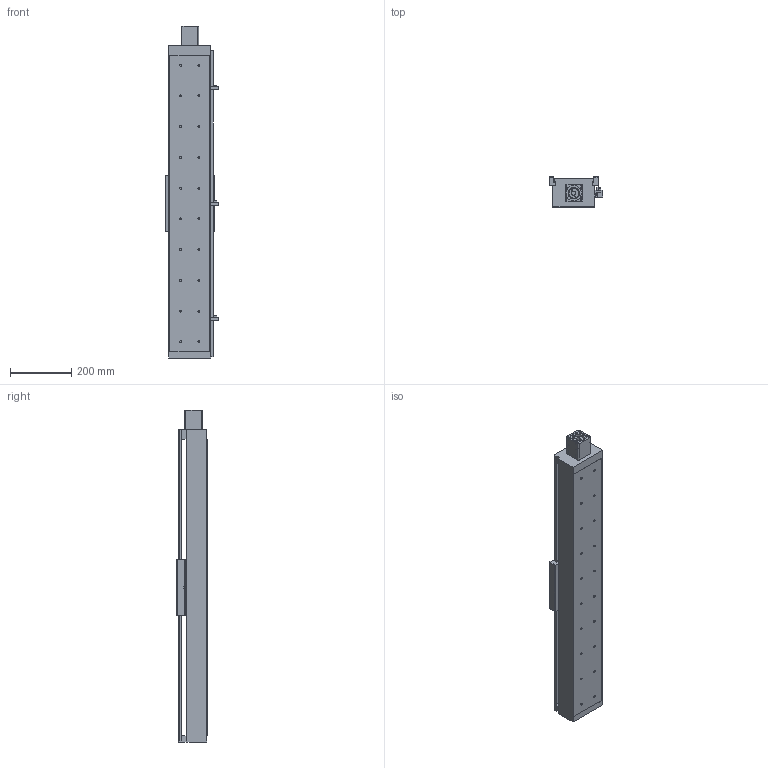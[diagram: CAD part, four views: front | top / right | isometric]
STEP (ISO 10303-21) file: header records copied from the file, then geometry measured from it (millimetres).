
FILE_DESCRIPTION((''),'2;1');
FILE_NAME('E:\libraries\UIA actuator library 2009\standard actuator\UIA136 ball screw 25\UIA136R15NDC-_ _ _-R25_ _, stp file 27Apr16\UIA136R15NDC-750-R25_ _-M60-P13-C10-S.stp','2016-04-28T16:53:17',('h029'),(''),'Autodesk Inventor 11','Autodesk Inventor 11','');
FILE_SCHEMA(('AUTOMOTIVE_DESIGN { 1 0 10303 214 1 1 1 1 }'));
Length unit declared in the file: millimetre
Products named in the file (10): UIA136R15NDC-750; UIA136R15NDC-body; motor mount F60; SOH-32C; SOH-32C-3; SOH-32C-1; SOH-32C-2; Carriage; Sensor Switch; sensor rail
Assembly tree (9 placements, depth 3):
  UIA136R15NDC-750
    UIA136R15NDC-body
    motor mount F60
    SOH-32C
      SOH-32C-3
      SOH-32C-1
      SOH-32C-2
    Carriage
    Sensor Switch
    sensor rail
Bounding box: 174.5 x 98 x 1080 mm (x, y, z)
Volume: 4150997.9 mm3; surface area: 1135731.1 mm2
Topology: 8 solids, 8 shells, 516 faces, 1355 edges, 886 vertices
Faces by surface type: plane 322, bspline 146, cylinder 44, cone 4
Full cylindrical faces by diameter (mm): 2.459 x2, 3.242 x2, 4.5 x2, 7 x4, 7.5 x2, 14 x3, 17 x1, 32 x3, 37 x1, 50.3 x1, 50.5 x1
Entity records: 16844 total; most frequent: CARTESIAN_POINT 4892, ORIENTED_EDGE 2304, DIRECTION 2258, EDGE_CURVE 1152, VERTEX_POINT 822, VECTOR 808, LINE 808, EDGE_LOOP 780
